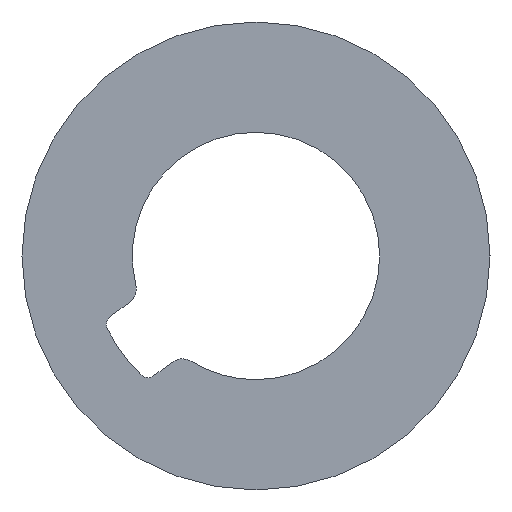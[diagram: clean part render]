
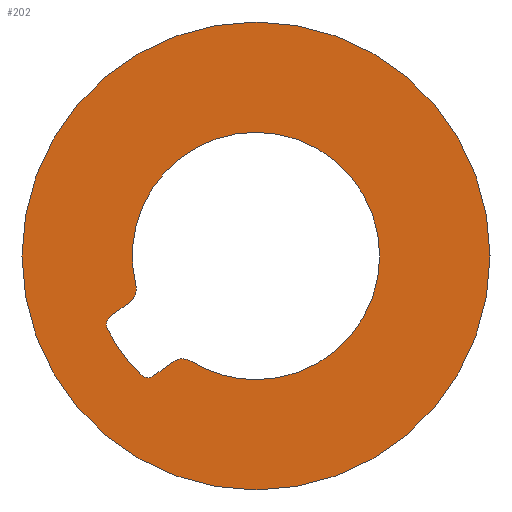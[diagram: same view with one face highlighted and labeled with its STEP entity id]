
A CAD part, left-side view. The second image highlights one B-rep face of the part: STEP entity #202.
In plain terms, the highlighted planar face has unit normal (-1, 0, 0).
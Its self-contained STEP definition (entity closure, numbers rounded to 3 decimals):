
#3 = ORIENTED_EDGE ( 'NONE', *, *, #296, .F. ) ;
#11 = CIRCLE ( 'NONE', #223, 3.7 ) ;
#15 = CIRCLE ( 'NONE', #225, 7. ) ;
#26 = CIRCLE ( 'NONE', #228, 0.3 ) ;
#38 = CIRCLE ( 'NONE', #230, 0.3 ) ;
#40 = CIRCLE ( 'NONE', #231, 4.95 ) ;
#41 = CIRCLE ( 'NONE', #232, 0.3 ) ;
#42 = VECTOR ( 'NONE', #353, 1000. ) ;
#43 = CIRCLE ( 'NONE', #233, 0.5 ) ;
#44 = CIRCLE ( 'NONE', #234, 0.5 ) ;
#45 = LINE ( 'NONE', #358, #42 ) ;
#46 = VECTOR ( 'NONE', #328, 1000. ) ;
#47 = CIRCLE ( 'NONE', #235, 7. ) ;
#48 = LINE ( 'NONE', #335, #46 ) ;
#55 = CIRCLE ( 'NONE', #242, 3.7 ) ;
#59 = ORIENTED_EDGE ( 'NONE', *, *, #276, .T. ) ;
#60 = ORIENTED_EDGE ( 'NONE', *, *, #262, .T. ) ;
#61 = ORIENTED_EDGE ( 'NONE', *, *, #277, .T. ) ;
#98 = EDGE_LOOP ( 'NONE', ( #59, #61, #60, #154, #153, #149, #150, #151, #152, #155, #156 ) ) ;
#99 = CIRCLE ( 'NONE', #244, 3.7 ) ;
#104 = ORIENTED_EDGE ( 'NONE', *, *, #275, .F. ) ;
#115 = FACE_BOUND ( 'NONE', #98, .T. ) ;
#117 = FACE_OUTER_BOUND ( 'NONE', #180, .T. ) ;
#149 = ORIENTED_EDGE ( 'NONE', *, *, #278, .T. ) ;
#150 = ORIENTED_EDGE ( 'NONE', *, *, #279, .T. ) ;
#151 = ORIENTED_EDGE ( 'NONE', *, *, #280, .T. ) ;
#152 = ORIENTED_EDGE ( 'NONE', *, *, #289, .T. ) ;
#153 = ORIENTED_EDGE ( 'NONE', *, *, #266, .T. ) ;
#154 = ORIENTED_EDGE ( 'NONE', *, *, #299, .T. ) ;
#155 = ORIENTED_EDGE ( 'NONE', *, *, #281, .T. ) ;
#156 = ORIENTED_EDGE ( 'NONE', *, *, #282, .T. ) ;
#180 = EDGE_LOOP ( 'NONE', ( #104, #3 ) ) ;
#202 = ADVANCED_FACE ( 'NONE', ( #117, #115 ), #514, .F. ) ;
#223 = AXIS2_PLACEMENT_3D ( 'NONE', #402, #414, #411 ) ;
#225 = AXIS2_PLACEMENT_3D ( 'NONE', #413, #412, #408 ) ;
#228 = AXIS2_PLACEMENT_3D ( 'NONE', #347, #343, #336 ) ;
#230 = AXIS2_PLACEMENT_3D ( 'NONE', #318, #314, #313 ) ;
#231 = AXIS2_PLACEMENT_3D ( 'NONE', #332, #323, #329 ) ;
#232 = AXIS2_PLACEMENT_3D ( 'NONE', #338, #341, #340 ) ;
#233 = AXIS2_PLACEMENT_3D ( 'NONE', #370, #333, #357 ) ;
#234 = AXIS2_PLACEMENT_3D ( 'NONE', #326, #325, #372 ) ;
#235 = AXIS2_PLACEMENT_3D ( 'NONE', #346, #345, #344 ) ;
#242 = AXIS2_PLACEMENT_3D ( 'NONE', #525, #435, #432 ) ;
#244 = AXIS2_PLACEMENT_3D ( 'NONE', #463, #464, #465 ) ;
#259 = AXIS2_PLACEMENT_3D ( 'NONE', #513, #512, #511 ) ;
#262 = EDGE_CURVE ( 'NONE', #500, #486, #99, .T. ) ;
#266 = EDGE_CURVE ( 'NONE', #457, #441, #55, .T. ) ;
#275 = EDGE_CURVE ( 'NONE', #456, #453, #47, .T. ) ;
#276 = EDGE_CURVE ( 'NONE', #467, #466, #48, .T. ) ;
#277 = EDGE_CURVE ( 'NONE', #466, #500, #44, .T. ) ;
#278 = EDGE_CURVE ( 'NONE', #441, #437, #43, .T. ) ;
#279 = EDGE_CURVE ( 'NONE', #437, #438, #45, .T. ) ;
#280 = EDGE_CURVE ( 'NONE', #438, #493, #41, .T. ) ;
#281 = EDGE_CURVE ( 'NONE', #458, #439, #40, .T. ) ;
#282 = EDGE_CURVE ( 'NONE', #439, #467, #38, .T. ) ;
#289 = EDGE_CURVE ( 'NONE', #493, #458, #26, .T. ) ;
#296 = EDGE_CURVE ( 'NONE', #453, #456, #15, .T. ) ;
#299 = EDGE_CURVE ( 'NONE', #486, #457, #11, .T. ) ;
#313 = DIRECTION ( 'NONE',  ( 0., 0., -1. ) ) ;
#314 = DIRECTION ( 'NONE',  ( 1., 0., 0. ) ) ;
#315 = CARTESIAN_POINT ( 'NONE',  ( -39.5, 2.495, -3.172 ) ) ;
#318 = CARTESIAN_POINT ( 'NONE',  ( -39.5, 4.176, -2.045 ) ) ;
#323 = DIRECTION ( 'NONE',  ( 1., 0., 0. ) ) ;
#325 = DIRECTION ( 'NONE',  ( -1., 0., 0. ) ) ;
#326 = CARTESIAN_POINT ( 'NONE',  ( -39.5, 4.082, -0.988 ) ) ;
#328 = DIRECTION ( 'NONE',  ( 0., -0.809, 0.588 ) ) ;
#329 = DIRECTION ( 'NONE',  ( 0., 0., 1. ) ) ;
#332 = CARTESIAN_POINT ( 'NONE',  ( -39.5, 0., 0. ) ) ;
#333 = DIRECTION ( 'NONE',  ( -1., 0., 0. ) ) ;
#335 = CARTESIAN_POINT ( 'NONE',  ( -39.5, 3.788, -1.393 ) ) ;
#336 = DIRECTION ( 'NONE',  ( 0., 0., 1. ) ) ;
#338 = CARTESIAN_POINT ( 'NONE',  ( -39.5, 3.236, -3.34 ) ) ;
#340 = DIRECTION ( 'NONE',  ( 0., 0., 1. ) ) ;
#341 = DIRECTION ( 'NONE',  ( 1., 0., 0. ) ) ;
#343 = DIRECTION ( 'NONE',  ( 1., 0., 0. ) ) ;
#344 = DIRECTION ( 'NONE',  ( 0., 0., -1. ) ) ;
#345 = DIRECTION ( 'NONE',  ( 1., 0., 0. ) ) ;
#346 = CARTESIAN_POINT ( 'NONE',  ( -39.5, 0., 0. ) ) ;
#347 = CARTESIAN_POINT ( 'NONE',  ( -39.5, 3.236, -3.34 ) ) ;
#353 = DIRECTION ( 'NONE',  ( 0., 0.809, -0.588 ) ) ;
#357 = DIRECTION ( 'NONE',  ( 0., 0., -1. ) ) ;
#358 = CARTESIAN_POINT ( 'NONE',  ( -39.5, 3.059, -3.582 ) ) ;
#360 = CARTESIAN_POINT ( 'NONE',  ( -39.5, 0., -7. ) ) ;
#370 = CARTESIAN_POINT ( 'NONE',  ( -39.5, 2.201, -3.577 ) ) ;
#372 = DIRECTION ( 'NONE',  ( 0., 0., 1. ) ) ;
#373 = CARTESIAN_POINT ( 'NONE',  ( -39.5, 1.939, -3.151 ) ) ;
#376 = CARTESIAN_POINT ( 'NONE',  ( -39.5, 4.445, -2.177 ) ) ;
#378 = CARTESIAN_POINT ( 'NONE',  ( -39.5, 3.059, -3.582 ) ) ;
#380 = CARTESIAN_POINT ( 'NONE',  ( -39.5, 0., 7. ) ) ;
#381 = CARTESIAN_POINT ( 'NONE',  ( -39.5, 4.352, -1.803 ) ) ;
#382 = CARTESIAN_POINT ( 'NONE',  ( -39.5, 0., 3.7 ) ) ;
#385 = CARTESIAN_POINT ( 'NONE',  ( -39.5, 3.236, -3.64 ) ) ;
#391 = CARTESIAN_POINT ( 'NONE',  ( -39.5, 3.444, -3.555 ) ) ;
#397 = CARTESIAN_POINT ( 'NONE',  ( -39.5, 0., -3.7 ) ) ;
#398 = CARTESIAN_POINT ( 'NONE',  ( -39.5, 3.596, -0.87 ) ) ;
#402 = CARTESIAN_POINT ( 'NONE',  ( -39.5, 0., 0. ) ) ;
#408 = DIRECTION ( 'NONE',  ( 0., 0., -1. ) ) ;
#411 = DIRECTION ( 'NONE',  ( 0., 0., -1. ) ) ;
#412 = DIRECTION ( 'NONE',  ( 1., 0., 0. ) ) ;
#413 = CARTESIAN_POINT ( 'NONE',  ( -39.5, 0., 0. ) ) ;
#414 = DIRECTION ( 'NONE',  ( 1., 0., 0. ) ) ;
#419 = CARTESIAN_POINT ( 'NONE',  ( -39.5, 3.788, -1.393 ) ) ;
#432 = DIRECTION ( 'NONE',  ( 0., 0., -1. ) ) ;
#435 = DIRECTION ( 'NONE',  ( 1., 0., 0. ) ) ;
#437 = VERTEX_POINT ( 'NONE', #315 ) ;
#438 = VERTEX_POINT ( 'NONE', #378 ) ;
#439 = VERTEX_POINT ( 'NONE', #376 ) ;
#441 = VERTEX_POINT ( 'NONE', #373 ) ;
#453 = VERTEX_POINT ( 'NONE', #360 ) ;
#456 = VERTEX_POINT ( 'NONE', #380 ) ;
#457 = VERTEX_POINT ( 'NONE', #397 ) ;
#458 = VERTEX_POINT ( 'NONE', #391 ) ;
#463 = CARTESIAN_POINT ( 'NONE',  ( -39.5, 0., 0. ) ) ;
#464 = DIRECTION ( 'NONE',  ( 1., 0., 0. ) ) ;
#465 = DIRECTION ( 'NONE',  ( 0., 0., -1. ) ) ;
#466 = VERTEX_POINT ( 'NONE', #419 ) ;
#467 = VERTEX_POINT ( 'NONE', #381 ) ;
#486 = VERTEX_POINT ( 'NONE', #382 ) ;
#493 = VERTEX_POINT ( 'NONE', #385 ) ;
#500 = VERTEX_POINT ( 'NONE', #398 ) ;
#511 = DIRECTION ( 'NONE',  ( 0., 0., -1. ) ) ;
#512 = DIRECTION ( 'NONE',  ( 1., 0., 0. ) ) ;
#513 = CARTESIAN_POINT ( 'NONE',  ( -39.5, 0., 0. ) ) ;
#514 = PLANE ( 'NONE',  #259 ) ;
#525 = CARTESIAN_POINT ( 'NONE',  ( -39.5, 0., 0. ) ) ;
